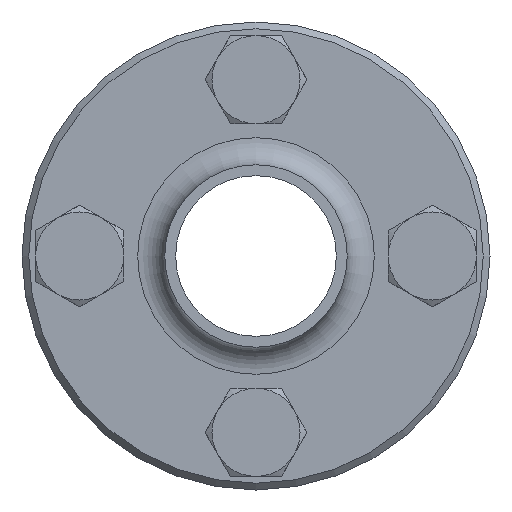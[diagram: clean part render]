
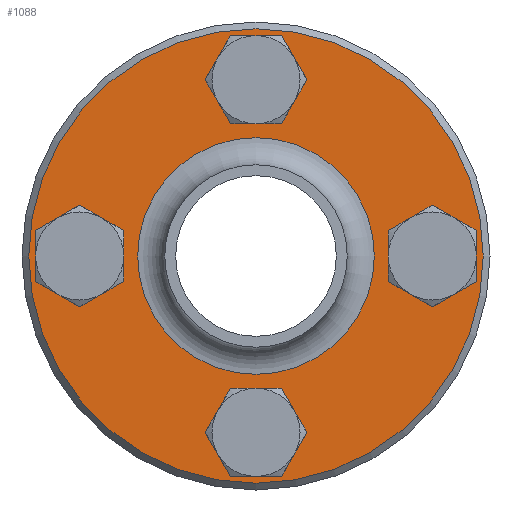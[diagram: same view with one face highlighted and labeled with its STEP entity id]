
A CAD part, front view. The second image highlights one B-rep face of the part: STEP entity #1088.
In plain terms, the highlighted planar face has unit normal (0, -1, 0).
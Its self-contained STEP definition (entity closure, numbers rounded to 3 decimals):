
#152=PLANE('',#1195);
#211=FACE_BOUND('',#381,.T.);
#212=FACE_BOUND('',#382,.T.);
#213=FACE_BOUND('',#383,.T.);
#214=FACE_BOUND('',#384,.T.);
#215=FACE_BOUND('',#385,.T.);
#280=FACE_OUTER_BOUND('',#380,.T.);
#380=EDGE_LOOP('',(#812));
#381=EDGE_LOOP('',(#813));
#382=EDGE_LOOP('',(#814));
#383=EDGE_LOOP('',(#815));
#384=EDGE_LOOP('',(#816));
#385=EDGE_LOOP('',(#817));
#491=CIRCLE('',#1155,4.5);
#493=CIRCLE('',#1158,4.5);
#495=CIRCLE('',#1161,4.5);
#497=CIRCLE('',#1164,4.5);
#513=CIRCLE('',#1194,33.5);
#514=CIRCLE('',#1196,17.45);
#563=VERTEX_POINT('',#1674);
#565=VERTEX_POINT('',#1679);
#567=VERTEX_POINT('',#1684);
#569=VERTEX_POINT('',#1689);
#585=VERTEX_POINT('',#1735);
#586=VERTEX_POINT('',#1738);
#658=EDGE_CURVE('',#563,#563,#491,.T.);
#660=EDGE_CURVE('',#565,#565,#493,.T.);
#662=EDGE_CURVE('',#567,#567,#495,.T.);
#664=EDGE_CURVE('',#569,#569,#497,.T.);
#680=EDGE_CURVE('',#585,#585,#513,.T.);
#681=EDGE_CURVE('',#586,#586,#514,.T.);
#812=ORIENTED_EDGE('',*,*,#680,.T.);
#813=ORIENTED_EDGE('',*,*,#658,.T.);
#814=ORIENTED_EDGE('',*,*,#660,.T.);
#815=ORIENTED_EDGE('',*,*,#662,.T.);
#816=ORIENTED_EDGE('',*,*,#664,.T.);
#817=ORIENTED_EDGE('',*,*,#681,.F.);
#1088=ADVANCED_FACE('',(#280,#211,#212,#213,#214,#215),#152,.T.);
#1155=AXIS2_PLACEMENT_3D('',#1675,#1324,#1325);
#1158=AXIS2_PLACEMENT_3D('',#1680,#1330,#1331);
#1161=AXIS2_PLACEMENT_3D('',#1685,#1336,#1337);
#1164=AXIS2_PLACEMENT_3D('',#1690,#1342,#1343);
#1194=AXIS2_PLACEMENT_3D('',#1736,#1402,#1403);
#1195=AXIS2_PLACEMENT_3D('',#1737,#1404,#1405);
#1196=AXIS2_PLACEMENT_3D('',#1739,#1406,#1407);
#1324=DIRECTION('center_axis',(0.,1.,0.));
#1325=DIRECTION('ref_axis',(0.,0.,1.));
#1330=DIRECTION('center_axis',(0.,1.,0.));
#1331=DIRECTION('ref_axis',(1.,0.,0.));
#1336=DIRECTION('center_axis',(0.,1.,0.));
#1337=DIRECTION('ref_axis',(0.,0.,-1.));
#1342=DIRECTION('center_axis',(0.,1.,0.));
#1343=DIRECTION('ref_axis',(-1.,0.,0.));
#1402=DIRECTION('center_axis',(0.,-1.,0.));
#1403=DIRECTION('ref_axis',(1.,0.,0.));
#1404=DIRECTION('center_axis',(0.,-1.,0.));
#1405=DIRECTION('ref_axis',(0.,0.,-1.));
#1406=DIRECTION('center_axis',(0.,-1.,0.));
#1407=DIRECTION('ref_axis',(1.,0.,0.));
#1674=CARTESIAN_POINT('',(-26.,30.,-4.5));
#1675=CARTESIAN_POINT('Origin',(-26.,30.,0.));
#1679=CARTESIAN_POINT('',(-4.5,30.,26.));
#1680=CARTESIAN_POINT('Origin',(0.,30.,26.));
#1684=CARTESIAN_POINT('',(26.,30.,4.5));
#1685=CARTESIAN_POINT('Origin',(26.,30.,0.));
#1689=CARTESIAN_POINT('',(4.5,30.,-26.));
#1690=CARTESIAN_POINT('Origin',(0.,30.,-26.));
#1735=CARTESIAN_POINT('',(33.5,30.,0.));
#1736=CARTESIAN_POINT('Origin',(0.,30.,0.));
#1737=CARTESIAN_POINT('Origin',(25.475,30.,0.));
#1738=CARTESIAN_POINT('',(17.45,30.,0.));
#1739=CARTESIAN_POINT('Origin',(0.,30.,0.));
